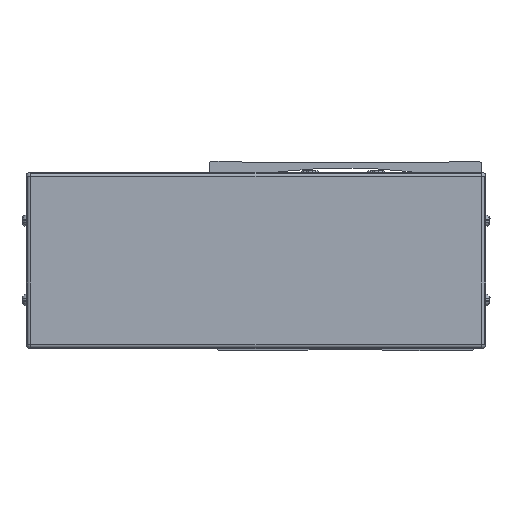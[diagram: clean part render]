
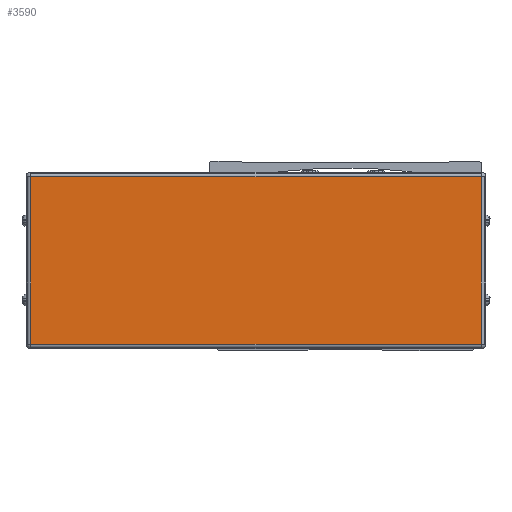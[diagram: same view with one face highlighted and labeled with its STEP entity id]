
A CAD part, front view. The second image highlights one B-rep face of the part: STEP entity #3590.
In plain terms, the highlighted planar face has unit normal (0, -1, 0).
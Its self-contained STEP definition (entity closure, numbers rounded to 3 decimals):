
#3590=ADVANCED_FACE('',(#8304),#8305,.F.);
#8304=FACE_OUTER_BOUND('',#14784,.T.);
#8305=PLANE('',#14785);
#14784=EDGE_LOOP('',(#26243,#26244,#26245,#26246));
#14785=AXIS2_PLACEMENT_3D('',#26247,#26248,#26249);
#26243=ORIENTED_EDGE('',*,*,#40755,.T.);
#26244=ORIENTED_EDGE('',*,*,#37434,.T.);
#26245=ORIENTED_EDGE('',*,*,#39611,.T.);
#26246=ORIENTED_EDGE('',*,*,#40756,.T.);
#26247=CARTESIAN_POINT('',(-340.5,-88.778,-8.));
#26248=DIRECTION('',(0.,1.0,0.));
#26249=DIRECTION('',(-1.0,0.,0.));
#37434=EDGE_CURVE('',#44761,#44759,#44762,.T.);
#39611=EDGE_CURVE('',#44759,#46208,#48406,.T.);
#40755=EDGE_CURVE('',#50134,#44761,#50135,.T.);
#40756=EDGE_CURVE('',#46208,#50134,#50136,.T.);
#44759=VERTEX_POINT('',#55196);
#44761=VERTEX_POINT('',#55198);
#44762=LINE('',#55199,#55200);
#46208=VERTEX_POINT('',#57366);
#48406=LINE('',#60630,#60631);
#50134=VERTEX_POINT('',#63119);
#50135=LINE('',#63120,#63121);
#50136=LINE('',#63122,#63123);
#55196=CARTESIAN_POINT('',(-238.3,-88.778,-46.));
#55198=CARTESIAN_POINT('',(-442.7,-88.778,-46.));
#55199=CARTESIAN_POINT('',(-340.5,-88.778,-46.));
#55200=VECTOR('',#69542,10.0);
#57366=CARTESIAN_POINT('',(-238.3,-88.778,30.));
#60630=CARTESIAN_POINT('',(-238.3,-88.778,-8.));
#60631=VECTOR('',#72293,10.0);
#63119=CARTESIAN_POINT('',(-442.7,-88.778,30.));
#63120=CARTESIAN_POINT('',(-442.7,-88.778,-8.));
#63121=VECTOR('',#73747,10.0);
#63122=CARTESIAN_POINT('',(-340.5,-88.778,30.));
#63123=VECTOR('',#73748,10.0);
#69542=DIRECTION('',(1.0,0.,0.));
#72293=DIRECTION('',(0.0,0.,1.0));
#73747=DIRECTION('',(0.0,0.,-1.0));
#73748=DIRECTION('',(-1.0,0.,0.));
